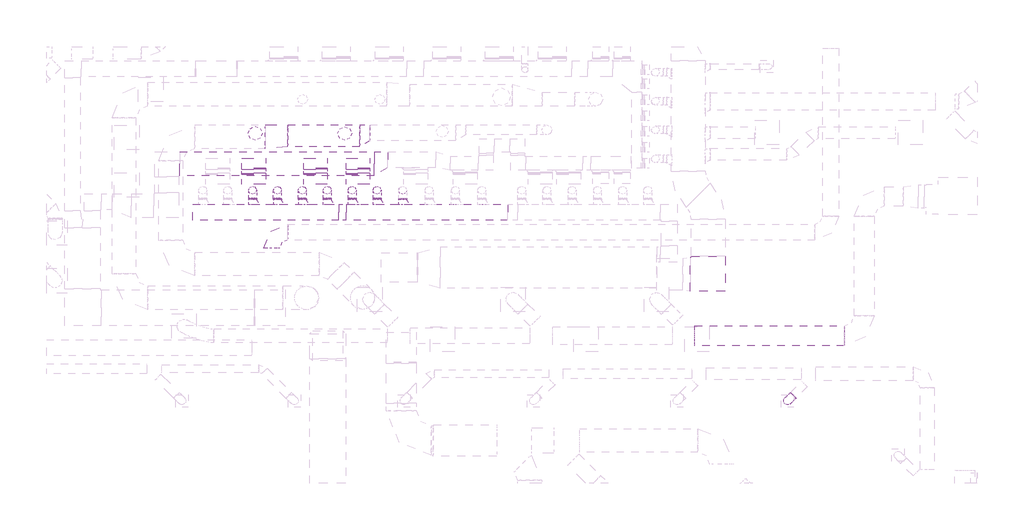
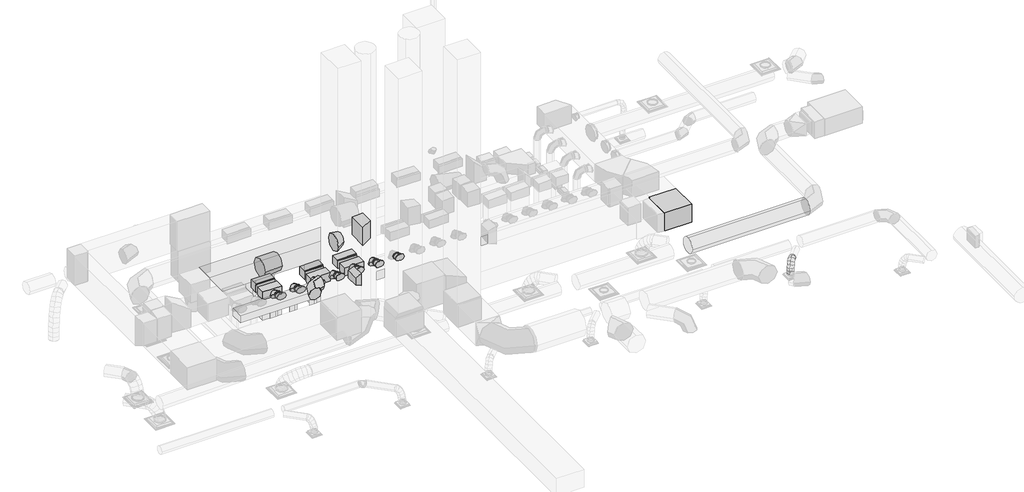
# One storey, part 21 of 33: 31 duct segments, 25 duct fittings.
"""IFC4 building model written with IfcOpenShell, lengths in millimetres."""

from ifc_helpers import new_model, si_unit, point, frame, frame_2d, origin, place, context, project, spatial, polyline, circle_curve, ellipse_curve, trimmed, segment, composite_curve, outline, extrude, transform, mapped, element, save
from ifc_brep_helpers import plane_surface, cylinder_surface, advanced_brep
from components import rectangular_elbow_mitered_standard_6e169d3c, rectangular_elbow_mitered_standard_939e93b7, rectangular_transition_angle_30_degree_c04a8cc3, rectangular_transition_angle_45_degree_9c68b8d8, round_elbow_1_d_8aca8b6e, round_elbow_1_d_a253342a, round_takeoff_shoe_standard_04262b54, round_takeoff_shoe_standard_1102fee2, round_transition_angle_30_degree_d5e024f3, round_transition_angle_5_degree_61572db6

model = new_model("IFC4")

# Units and contexts
model_context = context("Model", 3, world=origin())
ifc_project = project(units=[si_unit("LENGTHUNIT", "METRE", prefix="MILLI")], contexts=[model_context])

# Site, building, storey
site = spatial("IfcSite", under=ifc_project)
building = spatial("IfcBuilding", under=site)
storey = spatial("IfcBuildingStorey", under=building, Name="T.O. SLAB - 1ST", Elevation=-25.4)

# Duct fittings
placement = place(None, origin())
rectangular_elbow_mitered_standard_shape = rectangular_elbow_mitered_standard_6e169d3c(model_context)
element("IfcDuctFitting", 1, ObjectType="Rectangular Elbow - Mitered : Standard", at=placement, inside=storey, context=model_context, shape_type="MappedRepresentation", body=[
    mapped(rectangular_elbow_mitered_standard_shape, transform((28113.1876835, 23618.6195003, 4038.6), x_axis=(1.0, 0.0, 0.0), y_axis=(0.0, 1.0, 0.0), z_axis=(0.0, 0.0, 1.0))),
])
rectangular_elbow_mitered_standard_2_shape = rectangular_elbow_mitered_standard_939e93b7(model_context)
element("IfcDuctFitting", 2, ObjectType="Rectangular Elbow - Mitered : Standard", at=placement, inside=storey, context=model_context, shape_type="MappedRepresentation", body=[
    mapped(rectangular_elbow_mitered_standard_2_shape, transform((16525.0021736, 26045.4861634, 3860.8), x_axis=(0.0, 0.0, 1.0), y_axis=(0.0, 1.0, 0.0), z_axis=(-1.0, 0.0, 0.0))),
])
element("IfcDuctFitting", 3, ObjectType="Rectangular Elbow - Mitered : Standard", at=placement, inside=storey, context=model_context, shape_type="MappedRepresentation", body=[
    mapped(rectangular_elbow_mitered_standard_2_shape, transform((16525.0021736, 26454.3586872, 3860.8), x_axis=(0.0, 1.0, 0.0), y_axis=(0.0, 0.0, 1.0), z_axis=(1.0, 0.0, 0.0))),
])
element("IfcDuctFitting", 4, ObjectType="Rectangular Elbow - Mitered : Standard", at=placement, inside=storey, context=model_context, shape_type="MappedRepresentation", body=[
    mapped(rectangular_elbow_mitered_standard_2_shape, transform((18097.3470346, 26045.4861634, 3759.2002098), x_axis=(0.0, 0.0, 1.0), y_axis=(0.0, 1.0, 0.0), z_axis=(-1.0, 0.0, 0.0))),
])
element("IfcDuctFitting", 5, ObjectType="Rectangular Elbow - Mitered : Standard", at=placement, inside=storey, context=model_context, shape_type="MappedRepresentation", body=[
    mapped(rectangular_elbow_mitered_standard_2_shape, transform((18097.3470346, 26454.3586872, 3759.2002098), x_axis=(0.0, 1.0, 0.0), y_axis=(0.0, 0.0, 1.0), z_axis=(1.0, 0.0, 0.0))),
])
element("IfcDuctFitting", 6, ObjectType="Rectangular Elbow - Mitered : Standard", at=placement, inside=storey, context=model_context, shape_type="MappedRepresentation", body=[
    mapped(rectangular_elbow_mitered_standard_2_shape, transform((19180.7052113, 26045.4861634, 3759.2002098), x_axis=(0.0, 0.0, 1.0), y_axis=(0.0, 1.0, 0.0), z_axis=(-1.0, 0.0, 0.0))),
])
element("IfcDuctFitting", 7, ObjectType="Rectangular Elbow - Mitered : Standard", at=placement, inside=storey, context=model_context, shape_type="MappedRepresentation", body=[
    mapped(rectangular_elbow_mitered_standard_2_shape, transform((19180.7052113, 26454.3586872, 3759.2002098), x_axis=(0.0, 1.0, 0.0), y_axis=(0.0, 0.0, 1.0), z_axis=(1.0, 0.0, 0.0))),
])
rectangular_transition_angle_30_degree_shape = rectangular_transition_angle_30_degree_c04a8cc3(model_context)
element("IfcDuctFitting", 8, ObjectType="Rectangular Transition - Angle : 30 Degree", at=placement, inside=storey, context=model_context, shape_type="MappedRepresentation", body=[
    mapped(rectangular_transition_angle_30_degree_shape, transform((19590.4765778, 26439.3554681, 4580.960269), x_axis=(0.9999999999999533, 0.0, 3.0557005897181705e-07), y_axis=(0.0, 1.0000000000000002, 0.0), z_axis=(-3.055700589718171e-07, 0.0, 0.9999999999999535))),
])
rectangular_transition_angle_45_degree_shape = rectangular_transition_angle_45_degree_9c68b8d8(model_context)
element("IfcDuctFitting", 9, ObjectType="Rectangular Transition - Angle : 45 Degree", at=placement, inside=storey, context=model_context, shape_type="MappedRepresentation", body=[
    mapped(rectangular_transition_angle_45_degree_shape, transform((18879.7276932, 25204.454345, 4038.6), x_axis=(-1.0, 0.0, 0.0), y_axis=(0.0, -1.0, 0.0), z_axis=(0.0, 0.0, 1.0))),
])
round_elbow_1_d_shape = round_elbow_1_d_8aca8b6e(model_context)
element("IfcDuctFitting", 10, ObjectType="Round Elbow : 1 D", at=placement, inside=storey, context=model_context, shape_type="MappedRepresentation", body=[
    mapped(round_elbow_1_d_shape, transform((16978.9333005, 24698.325, 4648.2), x_axis=(-1.0, 0.0, 0.0), y_axis=(0.0, -1.0, 0.0), z_axis=(0.0, 0.0, 1.0))),
])
round_elbow_1_d_2_shape = round_elbow_1_d_a253342a(model_context)
element("IfcDuctFitting", 11, ObjectType="Round Elbow : 1 D", at=placement, inside=storey, context=model_context, shape_type="MappedRepresentation", body=[
    mapped(round_elbow_1_d_2_shape, transform((16491.1839544, 25766.0861634, 4038.6), x_axis=(0.0, 1.0, 0.0), y_axis=(0.0, 0.0, -1.0), z_axis=(-1.0, 0.0, 0.0))),
])
element("IfcDuctFitting", 12, ObjectType="Round Elbow : 1 D", at=placement, inside=storey, context=model_context, shape_type="MappedRepresentation", body=[
    mapped(round_elbow_1_d_2_shape, transform((17126.1839544, 25766.0861634, 4038.6), x_axis=(0.0, 1.0, 0.0), y_axis=(0.0, 0.0, -1.0), z_axis=(-1.0, 0.0, 0.0))),
])
element("IfcDuctFitting", 13, ObjectType="Round Elbow : 1 D", at=placement, inside=storey, context=model_context, shape_type="MappedRepresentation", body=[
    mapped(round_elbow_1_d_2_shape, transform((17761.1839544, 25766.0861634, 4038.6), x_axis=(0.0, 1.0, 0.0), y_axis=(0.0, 0.0, -1.0), z_axis=(-1.0, 0.0, 0.0))),
])
element("IfcDuctFitting", 14, ObjectType="Round Elbow : 1 D", at=placement, inside=storey, context=model_context, shape_type="MappedRepresentation", body=[
    mapped(round_elbow_1_d_2_shape, transform((18396.1839544, 25766.0861634, 4038.6), x_axis=(0.0, 1.0, 0.0), y_axis=(0.0, 0.0, -1.0), z_axis=(-1.0, 0.0, 0.0))),
])
element("IfcDuctFitting", 15, ObjectType="Round Elbow : 1 D", at=placement, inside=storey, context=model_context, shape_type="MappedRepresentation", body=[
    mapped(round_elbow_1_d_2_shape, transform((19031.1839544, 25766.0861634, 4038.6), x_axis=(0.0, 0.0, 1.0), y_axis=(0.0, -1.0, 0.0), z_axis=(1.0, 0.0, 0.0))),
])
element("IfcDuctFitting", 16, ObjectType="Round Elbow : 1 D", at=placement, inside=storey, context=model_context, shape_type="MappedRepresentation", body=[
    mapped(round_elbow_1_d_2_shape, transform((19666.1839544, 25766.0861634, 4038.6), x_axis=(0.0, 0.0, 1.0), y_axis=(0.0, -1.0, 0.0), z_axis=(1.0, 0.0, 0.0))),
])
round_takeoff_shoe_standard_shape = round_takeoff_shoe_standard_04262b54(model_context)
element("IfcDuctFitting", 17, ObjectType="Round Takeoff - Shoe : Standard", at=placement, inside=storey, context=model_context, shape_type="MappedRepresentation", body=[
    mapped(round_takeoff_shoe_standard_shape, transform((16491.1839544, 25407.654345, 4038.6), x_axis=(0.0, 1.0, 0.0), y_axis=(-1.0000000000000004, 0.0, 0.0), z_axis=(0.0, 0.0, 1.0000000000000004))),
])
element("IfcDuctFitting", 18, ObjectType="Round Takeoff - Shoe : Standard", at=placement, inside=storey, context=model_context, shape_type="MappedRepresentation", body=[
    mapped(round_takeoff_shoe_standard_shape, transform((17126.1839544, 25407.654345, 4038.6), x_axis=(0.0, 1.0, 0.0), y_axis=(-1.0000000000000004, 0.0, 0.0), z_axis=(0.0, 0.0, 1.0000000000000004))),
])
element("IfcDuctFitting", 19, ObjectType="Round Takeoff - Shoe : Standard", at=placement, inside=storey, context=model_context, shape_type="MappedRepresentation", body=[
    mapped(round_takeoff_shoe_standard_shape, transform((17761.1839544, 25407.654345, 4038.6), x_axis=(0.0, 1.0, 0.0), y_axis=(-1.0000000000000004, 0.0, 0.0), z_axis=(0.0, 0.0, 1.0000000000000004))),
])
element("IfcDuctFitting", 20, ObjectType="Round Takeoff - Shoe : Standard", at=placement, inside=storey, context=model_context, shape_type="MappedRepresentation", body=[
    mapped(round_takeoff_shoe_standard_shape, transform((18396.1839544, 25407.654345, 4038.6), x_axis=(0.0, 1.0, 0.0), y_axis=(-1.0000000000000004, 0.0, 0.0), z_axis=(0.0, 0.0, 1.0000000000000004))),
])
round_takeoff_shoe_standard_2_shape = round_takeoff_shoe_standard_1102fee2(model_context)
element("IfcDuctFitting", 21, ObjectType="Round Takeoff - Shoe : Standard", at=placement, inside=storey, context=model_context, shape_type="MappedRepresentation", body=[
    mapped(round_takeoff_shoe_standard_2_shape, transform((19031.1839544, 25407.654345, 4038.6), x_axis=(0.0, 1.0, 0.0), y_axis=(1.0, 0.0, 0.0), z_axis=(0.0, 0.0, -1.0))),
])
element("IfcDuctFitting", 22, ObjectType="Round Takeoff - Shoe : Standard", at=placement, inside=storey, context=model_context, shape_type="MappedRepresentation", body=[
    mapped(round_takeoff_shoe_standard_2_shape, transform((19666.1839544, 25407.654345, 4038.6), x_axis=(0.0, 1.0, 0.0), y_axis=(1.0, 0.0, 0.0), z_axis=(0.0, 0.0, -1.0))),
])
element("IfcDuctFitting", 23, ObjectType="Round Takeoff - Shoe : Standard", at=placement, inside=storey, context=model_context, shape_type="MappedRepresentation", body=[
    mapped(round_takeoff_shoe_standard_2_shape, transform((20320.2339544, 25407.654345, 4038.6), x_axis=(0.0, 1.0, 0.0), y_axis=(1.0, 0.0, 0.0), z_axis=(0.0, 0.0, -1.0))),
])
round_transition_angle_30_degree_shape = round_transition_angle_30_degree_d5e024f3(model_context)
element("IfcDuctFitting", 24, ObjectType="Round Transition - Angle : 30 Degree", at=placement, inside=storey, context=model_context, shape_type="MappedRepresentation", body=[
    mapped(round_transition_angle_30_degree_shape, transform((19222.0037073, 27150.5634642, 3892.55), x_axis=(1.0, 0.0, 0.0), y_axis=(0.0, 1.0, 0.0), z_axis=(0.0, 0.0, 1.0))),
])
round_transition_angle_5_degree_shape = round_transition_angle_5_degree_61572db6(model_context)
element("IfcDuctFitting", 25, ObjectType="Round Transition - Angle : 5 Degree", at=placement, inside=storey, context=model_context, shape_type="MappedRepresentation", body=[
    mapped(round_transition_angle_5_degree_shape, transform((16814.7900781, 27125.1634642, 3892.55), x_axis=(1.0, 0.0, 0.0), y_axis=(0.0, 1.0, 0.0), z_axis=(0.0, 0.0, 1.0))),
])

# Duct segments
element("IfcDuctSegment", 26, ObjectType="Flex - Round", at=placement, inside=storey, context=model_context, shape_type="AdvancedBrep", body=[
    advanced_brep(
    [(30352.3201551, 20463.5313832, 3530.6), (30280.4781061, 20535.3734322, 3429.0), (30208.6360571, 20607.2154811, 3530.6), (30280.4781061, 20535.3734322, 3632.2), (30332.1145009, 20443.3257291, 3530.6), (30277.3481368, 20532.2434629, 3429.0), (30188.53255, 20587.111974, 3530.6), (30243.2989142, 20498.1942402, 3632.2), (30208.4683912, 20320.8216688, 3117.85), (30064.7846844, 20321.1569141, 3117.85), (30065.1199297, 20464.840621, 3117.85), (30208.8036366, 20464.5053756, 3117.85), (30303.9301165, 20415.2261322, 3510.6152663), (30275.0542374, 20529.9564642, 3427.3734621), (30160.4945825, 20559.1583535, 3510.7190863), (30189.3704616, 20444.4280215, 3593.9608904), (30266.7491778, 20378.2568308, 3457.535869), (30254.271234, 20509.2917596, 3397.7037084), (30123.3906443, 20522.2656144, 3457.7496147), (30135.8685881, 20391.2306856, 3517.5817753), (30239.6699286, 20351.452559, 3381.5439205), (30235.3691358, 20490.5816036, 3344.6591332), (30096.337735, 20495.487415, 3381.8315832), (30100.6385278, 20356.3583704, 3418.7163705), (30221.6340426, 20333.6915046, 3292.8233304), (30220.4370407, 20475.8770443, 3271.2064459), (30078.3002632, 20477.724799, 3293.1031925), (30079.4972652, 20335.5392593, 3314.720077), (30211.5845889, 20323.8533685, 3201.5338504), (30211.6142397, 20467.2397672, 3191.0599091), (30068.241242, 20467.8772966, 3201.7268012), (30068.2115912, 20324.4908979, 3212.2007425), (30208.4683912, 20320.8216688, 3123.0874764), (30208.8036366, 20464.5053756, 3120.3064953), (30065.1199297, 20464.840621, 3123.1516743), (30064.7846844, 20321.1569141, 3125.9326554)],
    [
        (0, 1, circle_curve(frame((30280.4781061, 20535.3734322, 3530.6), z_axis=(0.7071067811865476, 0.7071067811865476, 0.0), x_axis=(0.7071067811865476, -0.7071067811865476, 0.0)), 101.6)),
        (1, 2, circle_curve(frame((30280.4781061, 20535.3734322, 3530.6), z_axis=(0.7071067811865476, 0.7071067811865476, 0.0), x_axis=(0.7071067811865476, -0.7071067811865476, 0.0)), 101.6)),
        (2, 3, circle_curve(frame((30280.4781061, 20535.3734322, 3530.6), z_axis=(0.7071067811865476, 0.7071067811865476, 0.0), x_axis=(0.7071067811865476, -0.7071067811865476, 0.0)), 101.6)),
        (3, 0, circle_curve(frame((30280.4781061, 20535.3734322, 3530.6), z_axis=(0.7071067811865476, 0.7071067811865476, 0.0), x_axis=(0.7071067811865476, -0.7071067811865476, 0.0)), 101.6)),
        (0, 4),
        (4, 5, ellipse_curve(frame((30260.3235255, 20515.2188515, 3530.6), z_axis=(0.6885404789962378, 0.6875621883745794, 0.2305867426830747), x_axis=(0.16098605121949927, 0.16511431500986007, -0.9730471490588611)), 104.4137922, 101.6)),
        (5, 1),
        (5, 6, ellipse_curve(frame((30260.3235255, 20515.2188515, 3530.6), z_axis=(0.6885404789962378, 0.6875621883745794, 0.2305867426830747), x_axis=(0.16098605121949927, 0.16511431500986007, -0.9730471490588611)), 104.4137922, 101.6)),
        (6, 2),
        (6, 7, ellipse_curve(frame((30260.3235255, 20515.2188515, 3530.6), z_axis=(0.6885404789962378, 0.6875621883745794, 0.2305867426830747), x_axis=(0.16098605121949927, 0.16511431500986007, -0.9730471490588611)), 104.4137922, 101.6)),
        (7, 3),
        (7, 4, ellipse_curve(frame((30260.3235255, 20515.2188515, 3530.6), z_axis=(0.6885404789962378, 0.6875621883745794, 0.2305867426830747), x_axis=(0.16098605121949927, 0.16511431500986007, -0.9730471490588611)), 104.4137922, 101.6)),
        (8, 9, circle_curve(frame((30136.7941605, 20392.8311449, 3117.85), z_axis=(0.0, 0.0, -1.0), x_axis=(0.7054550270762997, -0.7087546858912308, 0.0)), 101.6)),
        (9, 10, circle_curve(frame((30136.7941605, 20392.8311449, 3117.85), z_axis=(0.0, 0.0, -1.0), x_axis=(0.7054550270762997, -0.7087546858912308, 0.0)), 101.6)),
        (10, 11, circle_curve(frame((30136.7941605, 20392.8311449, 3117.85), z_axis=(0.0, 0.0, -1.0), x_axis=(0.7054550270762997, -0.7087546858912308, 0.0)), 101.6)),
        (11, 8, circle_curve(frame((30136.7941605, 20392.8311449, 3117.85), z_axis=(0.0, 0.0, -1.0), x_axis=(0.7054550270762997, -0.7087546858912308, 0.0)), 101.6)),
        (4, 12),
        (12, 13, ellipse_curve(frame((30232.2123495, 20487.1922428, 3510.6671763), z_axis=(0.5732082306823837, 0.5708061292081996, 0.5878883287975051), x_axis=(0.4142653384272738, 0.4171377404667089, -0.8089377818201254)), 102.96626, 101.6)),
        (13, 5),
        (13, 14, ellipse_curve(frame((30232.2123495, 20487.1922428, 3510.6671763), z_axis=(0.5732082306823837, 0.5708061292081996, 0.5878883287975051), x_axis=(0.4142653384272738, 0.4171377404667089, -0.8089377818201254)), 102.96626, 101.6)),
        (14, 6),
        (14, 15, ellipse_curve(frame((30232.2123495, 20487.1922428, 3510.6671763), z_axis=(0.5732082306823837, 0.5708061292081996, 0.5878883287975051), x_axis=(0.4142653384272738, 0.4171377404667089, -0.8089377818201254)), 102.96626, 101.6)),
        (15, 7),
        (15, 12, ellipse_curve(frame((30232.2123495, 20487.1922428, 3510.6671763), z_axis=(0.5732082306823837, 0.5708061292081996, 0.5878883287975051), x_axis=(0.4142653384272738, 0.4171377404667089, -0.8089377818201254)), 102.96626, 101.6)),
        (12, 16),
        (16, 17, ellipse_curve(frame((30195.069911, 20450.2612226, 3457.6427418), z_axis=(0.4135458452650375, 0.41047227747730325, 0.8127068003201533), x_axis=(0.5740369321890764, 0.575307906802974, -0.5826683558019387)), 102.8692851, 101.6)),
        (17, 13),
        (17, 18, ellipse_curve(frame((30195.069911, 20450.2612226, 3457.6427418), z_axis=(0.4135458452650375, 0.41047227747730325, 0.8127068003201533), x_axis=(0.5740369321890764, 0.575307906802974, -0.5826683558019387)), 102.8692851, 101.6)),
        (18, 14),
        (18, 19, ellipse_curve(frame((30195.069911, 20450.2612226, 3457.6427418), z_axis=(0.4135458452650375, 0.41047227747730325, 0.8127068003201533), x_axis=(0.5740369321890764, 0.575307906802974, -0.5826683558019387)), 102.8692851, 101.6)),
        (19, 15),
        (19, 16, ellipse_curve(frame((30195.069911, 20450.2612226, 3457.6427418), z_axis=(0.4135458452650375, 0.41047227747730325, 0.8127068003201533), x_axis=(0.5740369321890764, 0.575307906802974, -0.5826683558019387)), 102.8692851, 101.6)),
        (16, 20),
        (20, 21, ellipse_curve(frame((30168.0038318, 20423.469987, 3381.6877518), z_axis=(0.2581422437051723, 0.2550218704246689, 0.9318403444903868), x_axis=(0.6595970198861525, 0.6582257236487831, -0.3628645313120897)), 102.0449505, 101.6)),
        (21, 17),
        (21, 22, ellipse_curve(frame((30168.0038318, 20423.469987, 3381.6877518), z_axis=(0.2581422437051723, 0.2550218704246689, 0.9318403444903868), x_axis=(0.6595970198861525, 0.6582257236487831, -0.3628645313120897)), 102.0449505, 101.6)),
        (22, 18),
        (22, 23, ellipse_curve(frame((30168.0038318, 20423.469987, 3381.6877518), z_axis=(0.2581422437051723, 0.2550218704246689, 0.9318403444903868), x_axis=(0.6595970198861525, 0.6582257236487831, -0.3628645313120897)), 102.0449505, 101.6)),
        (23, 19),
        (23, 20, ellipse_curve(frame((30168.0038318, 20423.469987, 3381.6877518), z_axis=(0.2581422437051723, 0.2550218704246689, 0.9318403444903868), x_axis=(0.6595970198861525, 0.6582257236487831, -0.3628645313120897)), 102.0449505, 101.6)),
        (20, 24),
        (24, 25, ellipse_curve(frame((30149.9671529, 20405.7081518, 3292.9632615), z_axis=(0.15244178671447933, 0.14980329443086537, 0.9768932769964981), x_axis=(0.6935269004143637, 0.6879984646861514, -0.21372541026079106)), 101.7990065, 101.6)),
        (25, 21),
        (25, 26, ellipse_curve(frame((30149.9671529, 20405.7081518, 3292.9632615), z_axis=(0.15244178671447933, 0.14980329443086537, 0.9768932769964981), x_axis=(0.6935269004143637, 0.6879984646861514, -0.21372541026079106)), 101.7990065, 101.6)),
        (26, 22),
        (26, 27, ellipse_curve(frame((30149.9671529, 20405.7081518, 3292.9632615), z_axis=(0.15244178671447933, 0.14980329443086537, 0.9768932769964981), x_axis=(0.6935269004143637, 0.6879984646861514, -0.21372541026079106)), 101.7990065, 101.6)),
        (27, 23),
        (27, 24, ellipse_curve(frame((30149.9671529, 20405.7081518, 3292.9632615), z_axis=(0.15244178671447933, 0.14980329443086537, 0.9768932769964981), x_axis=(0.6935269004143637, 0.6879984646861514, -0.21372541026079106)), 101.7990065, 101.6)),
        (24, 28),
        (28, 29, ellipse_curve(frame((30139.9129154, 20395.8653325, 3201.6303258), z_axis=(0.07431974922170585, 0.07263609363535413, 0.9945856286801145), x_axis=(0.7094711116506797, 0.6970304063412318, -0.10391994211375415)), 101.7208169, 101.6)),
        (29, 25),
        (29, 30, ellipse_curve(frame((30139.9129154, 20395.8653325, 3201.6303258), z_axis=(0.07431974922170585, 0.07263609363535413, 0.9945856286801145), x_axis=(0.7094711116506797, 0.6970304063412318, -0.10391994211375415)), 101.7208169, 101.6)),
        (30, 26),
        (30, 31, ellipse_curve(frame((30139.9129154, 20395.8653325, 3201.6303258), z_axis=(0.07431974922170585, 0.07263609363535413, 0.9945856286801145), x_axis=(0.7094711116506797, 0.6970304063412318, -0.10391994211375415)), 101.7208169, 101.6)),
        (31, 27),
        (31, 28, ellipse_curve(frame((30139.9129154, 20395.8653325, 3201.6303258), z_axis=(0.07431974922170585, 0.07263609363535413, 0.9945856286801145), x_axis=(0.7094711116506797, 0.6970304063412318, -0.10391994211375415)), 101.7208169, 101.6)),
        (28, 32),
        (32, 33, ellipse_curve(frame((30136.7941605, 20392.8311449, 3123.1195753), z_axis=(0.019839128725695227, 0.01930117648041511, 0.9996168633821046), x_axis=(0.7164830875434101, 0.6970551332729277, -0.027678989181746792)), 101.6389416, 101.6)),
        (33, 29),
        (33, 34, ellipse_curve(frame((30136.7941605, 20392.8311449, 3123.1195753), z_axis=(0.019839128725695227, 0.01930117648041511, 0.9996168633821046), x_axis=(0.7164830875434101, 0.6970551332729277, -0.027678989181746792)), 101.6389416, 101.6)),
        (34, 30),
        (34, 35, ellipse_curve(frame((30136.7941605, 20392.8311449, 3123.1195753), z_axis=(0.019839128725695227, 0.01930117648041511, 0.9996168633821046), x_axis=(0.7164830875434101, 0.6970551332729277, -0.027678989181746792)), 101.6389416, 101.6)),
        (35, 31),
        (35, 32, ellipse_curve(frame((30136.7941605, 20392.8311449, 3123.1195753), z_axis=(0.019839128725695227, 0.01930117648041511, 0.9996168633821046), x_axis=(0.7164830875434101, 0.6970551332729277, -0.027678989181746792)), 101.6389416, 101.6)),
        (32, 8),
        (11, 33),
        (10, 34),
        (9, 35),
    ],
    [
        plane_surface(frame((30280.4781061, 20535.3734322, 3429.0), z_axis=(0.7071067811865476, 0.7071067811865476, 0.0), x_axis=(0.7071067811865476, -0.7071067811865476, 0.0))),
        cylinder_surface(frame((30280.4781061, 20535.3734322, 3530.6), z_axis=(0.7071067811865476, 0.7071067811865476, 0.0), x_axis=(0.7071067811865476, -0.7071067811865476, 0.0)), 101.6),
        plane_surface(frame((30136.7941605, 20291.2311449, 3117.85), z_axis=(0.0, 0.0, -1.0), x_axis=(-1.0, 0.0, 0.0))),
        cylinder_surface(frame((30260.3235255, 20515.2188515, 3530.6), z_axis=(0.6328639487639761, 0.6309600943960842, 0.44874556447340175), x_axis=(0.7061541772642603, -0.7080580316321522, -0.0003190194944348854)), 101.6),
        cylinder_surface(frame((30232.2123495, 20487.1922428, 3510.6671763), z_axis=(0.498340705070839, 0.49550410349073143, 0.7114297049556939), x_axis=(0.7056704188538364, -0.7085397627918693, -0.0008151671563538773)), 101.6),
        cylinder_surface(frame((30195.069911, 20450.2612226, 3457.6427418), z_axis=(0.3185456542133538, 0.315310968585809, 0.893928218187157), x_axis=(0.7053985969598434, -0.7088095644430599, -0.0013493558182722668)), 101.6),
        cylinder_surface(frame((30168.0038318, 20423.469987, 3381.6877518), z_axis=(0.19548765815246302, 0.19250880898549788, 0.9616261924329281), x_axis=(0.705360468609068, -0.7088472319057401, -0.0014869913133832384)), 101.6),
        cylinder_surface(frame((30149.9671529, 20405.7081518, 3292.9632615), z_axis=(0.10879989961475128, 0.10651208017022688, 0.9883409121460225), x_axis=(0.7053951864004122, -0.7088131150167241, -0.0012645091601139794)), 101.6),
        cylinder_surface(frame((30139.9129154, 20395.8653325, 3201.6303258), z_axis=(0.039663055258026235, 0.038587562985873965, 0.9984677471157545), x_axis=(0.7054424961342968, -0.7087668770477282, -0.0006313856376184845)), 101.6),
        cylinder_surface(frame((30136.7941605, 20392.8311449, 3123.1195753), z_axis=(0.0, 0.0, 1.0), x_axis=(0.7054550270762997, -0.7087546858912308, 0.0)), 101.6),
    ],
    [
        (0, [[1, 2, 3, 4]]),
        (1, [[-1, 5, 6, 7]]),
        (1, [[-2, -7, 8, 9]]),
        (1, [[-3, -9, 10, 11]]),
        (1, [[-4, -11, 12, -5]]),
        (2, [[13, 14, 15, 16]]),
        (3, [[-6, 17, 18, 19]]),
        (3, [[-8, -19, 20, 21]]),
        (3, [[-10, -21, 22, 23]]),
        (3, [[-12, -23, 24, -17]]),
        (4, [[-18, 25, 26, 27]]),
        (4, [[-20, -27, 28, 29]]),
        (4, [[-22, -29, 30, 31]]),
        (4, [[-24, -31, 32, -25]]),
        (5, [[-26, 33, 34, 35]]),
        (5, [[-28, -35, 36, 37]]),
        (5, [[-30, -37, 38, 39]]),
        (5, [[-32, -39, 40, -33]]),
        (6, [[-34, 41, 42, 43]]),
        (6, [[-36, -43, 44, 45]]),
        (6, [[-38, -45, 46, 47]]),
        (6, [[-40, -47, 48, -41]]),
        (7, [[-42, 49, 50, 51]]),
        (7, [[-44, -51, 52, 53]]),
        (7, [[-46, -53, 54, 55]]),
        (7, [[-48, -55, 56, -49]]),
        (8, [[-50, 57, 58, 59]]),
        (8, [[-52, -59, 60, 61]]),
        (8, [[-54, -61, 62, 63]]),
        (8, [[-56, -63, 64, -57]]),
        (9, [[-58, 65, -16, 66]]),
        (9, [[-60, -66, -15, 67]]),
        (9, [[-62, -67, -14, 68]]),
        (9, [[-64, -68, -13, -65]]),
    ],
),
])
element("IfcDuctSegment", 27, ObjectType="Mitered Elbows / Taps", at=placement, inside=storey, context=model_context, shape_type="SweptSolid", body=[
    extrude(outline(polyline([(18879.7276932, 25001.254345), (18879.7276932, 25407.654345), (23004.2494948, 25407.654345), (23004.2494948, 25001.254345), (18879.7276932, 25001.254345)])), frame((0.0, 0.0, 3835.4), z_axis=(0.0, 0.0, 1.0), x_axis=(1.0, 0.0, 0.0)), (0.0, 0.0, 1.0), 406.4),
])
element("IfcDuctSegment", 28, ObjectType="Mitered Elbows / Taps", at=placement, inside=storey, context=model_context, shape_type="SweptSolid", body=[
    extrude(outline(polyline([(18695.7646197, 25407.654345), (18695.7646197, 25001.254345), (14970.3316778, 25001.254345), (14970.3316778, 25407.654345), (18695.7646197, 25407.654345)])), frame((0.0, 0.0, 3911.6), z_axis=(0.0, 0.0, 1.0), x_axis=(1.0, 0.0, 0.0)), (0.0, 0.0, 1.0), 254.0),
])
element("IfcDuctSegment", 29, ObjectType="Mitered Elbows / Taps", at=placement, inside=storey, context=model_context, shape_type="SweptSolid", body=[
    extrude(outline(polyline([(16829.8021736, 25918.4861634), (16220.2021736, 25918.4861634), (16220.2021736, 26172.4861634), (16829.8021736, 26172.4861634), (16829.8021736, 25918.4861634)])), frame((0.0, 0.0, 3010.628306), z_axis=(0.0, 0.0, 1.0), x_axis=(1.0, 0.0, 0.0)), (0.0, 0.0, 1.0), 697.771694),
])
element("IfcDuctSegment", 30, ObjectType="Mitered Elbows / Taps", at=placement, inside=storey, context=model_context, shape_type="SweptSolid", body=[
    extrude(outline(polyline([(16829.8021736, 26197.8861634), (16220.2021736, 26197.8861634), (16220.2021736, 26301.9586872), (16829.8021736, 26301.9586872), (16829.8021736, 26197.8861634)])), frame((0.0, 0.0, 3733.8), z_axis=(0.0, 0.0, 1.0), x_axis=(1.0, 0.0, 0.0)), (0.0, 0.0, 1.0), 254.0),
])
element("IfcDuctSegment", 31, ObjectType="Mitered Elbows / Taps", at=placement, inside=storey, context=model_context, shape_type="SweptSolid", body=[
    extrude(outline(polyline([(16829.8021736, 26327.3586872), (16220.2021736, 26327.3586872), (16220.2021736, 26581.3586872), (16829.8021736, 26581.3586872), (16829.8021736, 26327.3586872)])), frame((0.0, 0.0, 4013.2), z_axis=(0.0, 0.0, 1.0), x_axis=(1.0, 0.0, 0.0)), (0.0, 0.0, 1.0), 262.9587181),
])
element("IfcDuctSegment", 32, ObjectType="Mitered Elbows / Taps", at=placement, inside=storey, context=model_context, shape_type="SweptSolid", body=[
    extrude(outline(polyline([(14629.5111715, 26134.5554681), (14629.5111715, 26744.1554681), (19590.4765778, 26744.1554681), (19590.4765778, 26134.5554681), (14629.5111715, 26134.5554681)])), frame((0.0, 0.0, 4276.1587181), z_axis=(0.0, 0.0, 1.0), x_axis=(1.0, 0.0, 0.0)), (0.0, 0.0, 1.0), 609.6),
])
element("IfcDuctSegment", 33, ObjectType="Mitered Elbows / Taps", at=placement, inside=storey, context=model_context, shape_type="SweptSolid", body=[
    extrude(outline(polyline([(18402.1470346, 25918.4861634), (17792.5470346, 25918.4861634), (17792.5470346, 26172.4861634), (18402.1470346, 26172.4861634), (18402.1470346, 25918.4861634)])), frame((0.0, 0.0, 3010.628306), z_axis=(0.0, 0.0, 1.0), x_axis=(1.0, 0.0, 0.0)), (0.0, 0.0, 1.0), 596.1719038),
])
element("IfcDuctSegment", 34, ObjectType="Mitered Elbows / Taps", at=placement, inside=storey, context=model_context, shape_type="SweptSolid", body=[
    extrude(outline(polyline([(18402.1470346, 26197.8861634), (17792.5470346, 26197.8861634), (17792.5470346, 26301.9586872), (18402.1470346, 26301.9586872), (18402.1470346, 26197.8861634)])), frame((0.0, 0.0, 3632.2002098), z_axis=(0.0, 0.0, 1.0), x_axis=(1.0, 0.0, 0.0)), (0.0, 0.0, 1.0), 254.0),
])
element("IfcDuctSegment", 35, ObjectType="Mitered Elbows / Taps", at=placement, inside=storey, context=model_context, shape_type="SweptSolid", body=[
    extrude(outline(polyline([(18402.1470346, 26327.3586872), (17792.5470346, 26327.3586872), (17792.5470346, 26581.3586872), (18402.1470346, 26581.3586872), (18402.1470346, 26327.3586872)])), frame((0.0, 0.0, 3911.6002098), z_axis=(0.0, 0.0, 1.0), x_axis=(1.0, 0.0, 0.0)), (0.0, 0.0, 1.0), 364.5585083),
])
element("IfcDuctSegment", 36, ObjectType="Mitered Elbows / Taps", at=placement, inside=storey, context=model_context, shape_type="SweptSolid", body=[
    extrude(outline(polyline([(19485.5052113, 25918.4861634), (18875.9052113, 25918.4861634), (18875.9052113, 26172.4861634), (19485.5052113, 26172.4861634), (19485.5052113, 25918.4861634)])), frame((0.0, 0.0, 3010.628306), z_axis=(0.0, 0.0, 1.0), x_axis=(1.0, 0.0, 0.0)), (0.0, 0.0, 1.0), 596.1719038),
])
element("IfcDuctSegment", 37, ObjectType="Mitered Elbows / Taps", at=placement, inside=storey, context=model_context, shape_type="SweptSolid", body=[
    extrude(outline(polyline([(19485.5052113, 26197.8861634), (18875.9052113, 26197.8861634), (18875.9052113, 26301.9586872), (19485.5052113, 26301.9586872), (19485.5052113, 26197.8861634)])), frame((0.0, 0.0, 3632.2002098), z_axis=(0.0, 0.0, 1.0), x_axis=(1.0, 0.0, 0.0)), (0.0, 0.0, 1.0), 254.0),
])
element("IfcDuctSegment", 38, ObjectType="Mitered Elbows / Taps", at=placement, inside=storey, context=model_context, shape_type="SweptSolid", body=[
    extrude(outline(polyline([(19485.5052113, 26327.3586872), (18875.9052113, 26327.3586872), (18875.9052113, 26581.3586872), (19485.5052113, 26581.3586872), (19485.5052113, 26327.3586872)])), frame((0.0, 0.0, 3911.6002098), z_axis=(0.0, 0.0, 1.0), x_axis=(1.0, 0.0, 0.0)), (0.0, 0.0, 1.0), 364.5585083),
])
element("IfcDuctSegment", 39, ObjectType="Taps", at=placement, inside=storey, context=model_context, shape_type="SweptSolid", body=[
    extrude(outline(composite_curve([segment(trimmed(circle_curve(frame_2d((4038.6, 16491.1839544)), 101.6), [point((4038.6, 16592.7839544))], [point((4140.2, 16491.1839544))], False, "CARTESIAN"), True, "CONTINUOUS"), segment(trimmed(circle_curve(frame_2d((4038.6, 16491.1839544)), 101.6), [point((4140.2, 16491.1839544))], [point((4038.6, 16389.5839544))], False, "CARTESIAN"), True, "CONTINUOUS"), segment(trimmed(circle_curve(frame_2d((4038.6, 16491.1839544)), 101.6), [point((4038.6, 16389.5839544))], [point((3937.0, 16491.1839544))], False, "CARTESIAN"), True, "CONTINUOUS"), segment(trimmed(circle_curve(frame_2d((4038.6, 16491.1839544)), 101.6), [point((3937.0, 16491.1839544))], [point((4038.6, 16592.7839544))], False, "CARTESIAN"), True, "CONTINUOUS")], self_intersect=False)), frame((0.0, 25534.654345, 0.0), z_axis=(0.0, 1.0, 0.0), x_axis=(0.0, 0.0, 1.0)), (0.0, 0.0, 1.0), 28.2318184),
])
element("IfcDuctSegment", 40, ObjectType="Taps", at=placement, inside=storey, context=model_context, shape_type="SweptSolid", body=[
    extrude(outline(composite_curve([segment(trimmed(circle_curve(frame_2d((16491.1839544, 25766.0861634)), 101.6), [point((16592.7839544, 25766.0861634))], [point((16491.1839544, 25664.4861634))], False, "CARTESIAN"), True, "CONTINUOUS"), segment(trimmed(circle_curve(frame_2d((16491.1839544, 25766.0861634)), 101.6), [point((16491.1839544, 25664.4861634))], [point((16389.5839544, 25766.0861634))], False, "CARTESIAN"), True, "CONTINUOUS"), segment(trimmed(circle_curve(frame_2d((16491.1839544, 25766.0861634)), 101.6), [point((16389.5839544, 25766.0861634))], [point((16491.1839544, 25867.6861634))], False, "CARTESIAN"), True, "CONTINUOUS"), segment(trimmed(circle_curve(frame_2d((16491.1839544, 25766.0861634)), 101.6), [point((16491.1839544, 25867.6861634))], [point((16592.7839544, 25766.0861634))], False, "CARTESIAN"), True, "CONTINUOUS")], self_intersect=False)), frame((0.0, 0.0, 3010.628306), z_axis=(0.0, 0.0, 1.0), x_axis=(1.0, 0.0, 0.0)), (0.0, 0.0, 1.0), 824.771694),
])
element("IfcDuctSegment", 41, ObjectType="Taps", at=placement, inside=storey, context=model_context, shape_type="SweptSolid", body=[
    extrude(outline(composite_curve([segment(trimmed(circle_curve(frame_2d((4038.6, 17126.1839544)), 101.6), [point((4038.6, 17227.7839544))], [point((4140.2, 17126.1839544))], False, "CARTESIAN"), True, "CONTINUOUS"), segment(trimmed(circle_curve(frame_2d((4038.6, 17126.1839544)), 101.6), [point((4140.2, 17126.1839544))], [point((4038.6, 17024.5839544))], False, "CARTESIAN"), True, "CONTINUOUS"), segment(trimmed(circle_curve(frame_2d((4038.6, 17126.1839544)), 101.6), [point((4038.6, 17024.5839544))], [point((3937.0, 17126.1839544))], False, "CARTESIAN"), True, "CONTINUOUS"), segment(trimmed(circle_curve(frame_2d((4038.6, 17126.1839544)), 101.6), [point((3937.0, 17126.1839544))], [point((4038.6, 17227.7839544))], False, "CARTESIAN"), True, "CONTINUOUS")], self_intersect=False)), frame((0.0, 25534.654345, 0.0), z_axis=(0.0, 1.0, 0.0), x_axis=(0.0, 0.0, 1.0)), (0.0, 0.0, 1.0), 28.2318184),
])
element("IfcDuctSegment", 42, ObjectType="Taps", at=placement, inside=storey, context=model_context, shape_type="SweptSolid", body=[
    extrude(outline(composite_curve([segment(trimmed(circle_curve(frame_2d((17126.1839544, 25766.0861634)), 101.6), [point((17227.7839544, 25766.0861634))], [point((17126.1839544, 25664.4861634))], False, "CARTESIAN"), True, "CONTINUOUS"), segment(trimmed(circle_curve(frame_2d((17126.1839544, 25766.0861634)), 101.6), [point((17126.1839544, 25664.4861634))], [point((17024.5839544, 25766.0861634))], False, "CARTESIAN"), True, "CONTINUOUS"), segment(trimmed(circle_curve(frame_2d((17126.1839544, 25766.0861634)), 101.6), [point((17024.5839544, 25766.0861634))], [point((17126.1839544, 25867.6861634))], False, "CARTESIAN"), True, "CONTINUOUS"), segment(trimmed(circle_curve(frame_2d((17126.1839544, 25766.0861634)), 101.6), [point((17126.1839544, 25867.6861634))], [point((17227.7839544, 25766.0861634))], False, "CARTESIAN"), True, "CONTINUOUS")], self_intersect=False)), frame((0.0, 0.0, 3010.628306), z_axis=(0.0, 0.0, 1.0), x_axis=(1.0, 0.0, 0.0)), (0.0, 0.0, 1.0), 824.771694),
])
element("IfcDuctSegment", 43, ObjectType="Taps", at=placement, inside=storey, context=model_context, shape_type="SweptSolid", body=[
    extrude(outline(composite_curve([segment(trimmed(circle_curve(frame_2d((4038.6, 17761.1839544)), 101.6), [point((4038.6, 17862.7839544))], [point((4140.2, 17761.1839544))], False, "CARTESIAN"), True, "CONTINUOUS"), segment(trimmed(circle_curve(frame_2d((4038.6, 17761.1839544)), 101.6), [point((4140.2, 17761.1839544))], [point((4038.6, 17659.5839544))], False, "CARTESIAN"), True, "CONTINUOUS"), segment(trimmed(circle_curve(frame_2d((4038.6, 17761.1839544)), 101.6), [point((4038.6, 17659.5839544))], [point((3937.0, 17761.1839544))], False, "CARTESIAN"), True, "CONTINUOUS"), segment(trimmed(circle_curve(frame_2d((4038.6, 17761.1839544)), 101.6), [point((3937.0, 17761.1839544))], [point((4038.6, 17862.7839544))], False, "CARTESIAN"), True, "CONTINUOUS")], self_intersect=False)), frame((0.0, 25534.654345, 0.0), z_axis=(0.0, 1.0, 0.0), x_axis=(0.0, 0.0, 1.0)), (0.0, 0.0, 1.0), 28.2318184),
])
element("IfcDuctSegment", 44, ObjectType="Taps", at=placement, inside=storey, context=model_context, shape_type="SweptSolid", body=[
    extrude(outline(composite_curve([segment(trimmed(circle_curve(frame_2d((17761.1839544, 25766.0861634)), 101.6), [point((17862.7839544, 25766.0861634))], [point((17761.1839544, 25664.4861634))], False, "CARTESIAN"), True, "CONTINUOUS"), segment(trimmed(circle_curve(frame_2d((17761.1839544, 25766.0861634)), 101.6), [point((17761.1839544, 25664.4861634))], [point((17659.5839544, 25766.0861634))], False, "CARTESIAN"), True, "CONTINUOUS"), segment(trimmed(circle_curve(frame_2d((17761.1839544, 25766.0861634)), 101.6), [point((17659.5839544, 25766.0861634))], [point((17761.1839544, 25867.6861634))], False, "CARTESIAN"), True, "CONTINUOUS"), segment(trimmed(circle_curve(frame_2d((17761.1839544, 25766.0861634)), 101.6), [point((17761.1839544, 25867.6861634))], [point((17862.7839544, 25766.0861634))], False, "CARTESIAN"), True, "CONTINUOUS")], self_intersect=False)), frame((0.0, 0.0, 3010.628306), z_axis=(0.0, 0.0, 1.0), x_axis=(1.0, 0.0, 0.0)), (0.0, 0.0, 1.0), 824.771694),
])
element("IfcDuctSegment", 45, ObjectType="Taps", at=placement, inside=storey, context=model_context, shape_type="SweptSolid", body=[
    extrude(outline(composite_curve([segment(trimmed(circle_curve(frame_2d((4038.6, 18396.1839544)), 101.6), [point((4038.6, 18497.7839544))], [point((4140.2, 18396.1839544))], False, "CARTESIAN"), True, "CONTINUOUS"), segment(trimmed(circle_curve(frame_2d((4038.6, 18396.1839544)), 101.6), [point((4140.2, 18396.1839544))], [point((4038.6, 18294.5839544))], False, "CARTESIAN"), True, "CONTINUOUS"), segment(trimmed(circle_curve(frame_2d((4038.6, 18396.1839544)), 101.6), [point((4038.6, 18294.5839544))], [point((3937.0, 18396.1839544))], False, "CARTESIAN"), True, "CONTINUOUS"), segment(trimmed(circle_curve(frame_2d((4038.6, 18396.1839544)), 101.6), [point((3937.0, 18396.1839544))], [point((4038.6, 18497.7839544))], False, "CARTESIAN"), True, "CONTINUOUS")], self_intersect=False)), frame((0.0, 25534.654345, 0.0), z_axis=(0.0, 1.0, 0.0), x_axis=(0.0, 0.0, 1.0)), (0.0, 0.0, 1.0), 28.2318184),
])
element("IfcDuctSegment", 46, ObjectType="Taps", at=placement, inside=storey, context=model_context, shape_type="SweptSolid", body=[
    extrude(outline(composite_curve([segment(trimmed(circle_curve(frame_2d((18396.1839544, 25766.0861634)), 101.6), [point((18497.7839544, 25766.0861634))], [point((18396.1839544, 25664.4861634))], False, "CARTESIAN"), True, "CONTINUOUS"), segment(trimmed(circle_curve(frame_2d((18396.1839544, 25766.0861634)), 101.6), [point((18396.1839544, 25664.4861634))], [point((18294.5839544, 25766.0861634))], False, "CARTESIAN"), True, "CONTINUOUS"), segment(trimmed(circle_curve(frame_2d((18396.1839544, 25766.0861634)), 101.6), [point((18294.5839544, 25766.0861634))], [point((18396.1839544, 25867.6861634))], False, "CARTESIAN"), True, "CONTINUOUS"), segment(trimmed(circle_curve(frame_2d((18396.1839544, 25766.0861634)), 101.6), [point((18396.1839544, 25867.6861634))], [point((18497.7839544, 25766.0861634))], False, "CARTESIAN"), True, "CONTINUOUS")], self_intersect=False)), frame((0.0, 0.0, 3010.628306), z_axis=(0.0, 0.0, 1.0), x_axis=(1.0, 0.0, 0.0)), (0.0, 0.0, 1.0), 824.771694),
])
element("IfcDuctSegment", 47, ObjectType="Taps", at=placement, inside=storey, context=model_context, shape_type="SweptSolid", body=[
    extrude(outline(composite_curve([segment(trimmed(circle_curve(frame_2d((4038.6, 19031.1839544)), 101.6), [point((4038.6, 18929.5839544))], [point((3937.0, 19031.1839544))], False, "CARTESIAN"), True, "CONTINUOUS"), segment(trimmed(circle_curve(frame_2d((4038.6, 19031.1839544)), 101.6), [point((3937.0, 19031.1839544))], [point((4038.6, 19132.7839544))], False, "CARTESIAN"), True, "CONTINUOUS"), segment(trimmed(circle_curve(frame_2d((4038.6, 19031.1839544)), 101.6), [point((4038.6, 19132.7839544))], [point((4140.2, 19031.1839544))], False, "CARTESIAN"), True, "CONTINUOUS"), segment(trimmed(circle_curve(frame_2d((4038.6, 19031.1839544)), 101.6), [point((4140.2, 19031.1839544))], [point((4038.6, 18929.5839544))], False, "CARTESIAN"), True, "CONTINUOUS")], self_intersect=False)), frame((0.0, 25534.654345, 0.0), z_axis=(0.0, 1.0, 0.0), x_axis=(0.0, 0.0, 1.0)), (0.0, 0.0, 1.0), 28.2318184),
])
element("IfcDuctSegment", 48, ObjectType="Taps", at=placement, inside=storey, context=model_context, shape_type="SweptSolid", body=[
    extrude(outline(composite_curve([segment(trimmed(circle_curve(frame_2d((19031.1839544, 25766.0861634)), 101.6), [point((19132.7839544, 25766.0861634))], [point((19031.1839544, 25664.4861634))], False, "CARTESIAN"), True, "CONTINUOUS"), segment(trimmed(circle_curve(frame_2d((19031.1839544, 25766.0861634)), 101.6), [point((19031.1839544, 25664.4861634))], [point((18929.5839544, 25766.0861634))], False, "CARTESIAN"), True, "CONTINUOUS"), segment(trimmed(circle_curve(frame_2d((19031.1839544, 25766.0861634)), 101.6), [point((18929.5839544, 25766.0861634))], [point((19031.1839544, 25867.6861634))], False, "CARTESIAN"), True, "CONTINUOUS"), segment(trimmed(circle_curve(frame_2d((19031.1839544, 25766.0861634)), 101.6), [point((19031.1839544, 25867.6861634))], [point((19132.7839544, 25766.0861634))], False, "CARTESIAN"), True, "CONTINUOUS")], self_intersect=False)), frame((0.0, 0.0, 3010.628306), z_axis=(0.0, 0.0, 1.0), x_axis=(1.0, 0.0, 0.0)), (0.0, 0.0, 1.0), 824.771694),
])
element("IfcDuctSegment", 49, ObjectType="Taps", at=placement, inside=storey, context=model_context, shape_type="SweptSolid", body=[
    extrude(outline(composite_curve([segment(trimmed(circle_curve(frame_2d((4038.6, 19666.1839544)), 101.6), [point((4038.6, 19564.5839544))], [point((3937.0, 19666.1839544))], False, "CARTESIAN"), True, "CONTINUOUS"), segment(trimmed(circle_curve(frame_2d((4038.6, 19666.1839544)), 101.6), [point((3937.0, 19666.1839544))], [point((4038.6, 19767.7839544))], False, "CARTESIAN"), True, "CONTINUOUS"), segment(trimmed(circle_curve(frame_2d((4038.6, 19666.1839544)), 101.6), [point((4038.6, 19767.7839544))], [point((4140.2, 19666.1839544))], False, "CARTESIAN"), True, "CONTINUOUS"), segment(trimmed(circle_curve(frame_2d((4038.6, 19666.1839544)), 101.6), [point((4140.2, 19666.1839544))], [point((4038.6, 19564.5839544))], False, "CARTESIAN"), True, "CONTINUOUS")], self_intersect=False)), frame((0.0, 25534.654345, 0.0), z_axis=(0.0, 1.0, 0.0), x_axis=(0.0, 0.0, 1.0)), (0.0, 0.0, 1.0), 28.2318184),
])
element("IfcDuctSegment", 50, ObjectType="Taps", at=placement, inside=storey, context=model_context, shape_type="SweptSolid", body=[
    extrude(outline(composite_curve([segment(trimmed(circle_curve(frame_2d((19666.1839544, 25766.0861634)), 101.6), [point((19767.7839544, 25766.0861634))], [point((19666.1839544, 25664.4861634))], False, "CARTESIAN"), True, "CONTINUOUS"), segment(trimmed(circle_curve(frame_2d((19666.1839544, 25766.0861634)), 101.6), [point((19666.1839544, 25664.4861634))], [point((19564.5839544, 25766.0861634))], False, "CARTESIAN"), True, "CONTINUOUS"), segment(trimmed(circle_curve(frame_2d((19666.1839544, 25766.0861634)), 101.6), [point((19564.5839544, 25766.0861634))], [point((19666.1839544, 25867.6861634))], False, "CARTESIAN"), True, "CONTINUOUS"), segment(trimmed(circle_curve(frame_2d((19666.1839544, 25766.0861634)), 101.6), [point((19666.1839544, 25867.6861634))], [point((19767.7839544, 25766.0861634))], False, "CARTESIAN"), True, "CONTINUOUS")], self_intersect=False)), frame((0.0, 0.0, 3010.628306), z_axis=(0.0, 0.0, 1.0), x_axis=(1.0, 0.0, 0.0)), (0.0, 0.0, 1.0), 824.771694),
])
element("IfcDuctSegment", 51, ObjectType="Taps", at=placement, inside=storey, context=model_context, shape_type="SweptSolid", body=[
    extrude(outline(composite_curve([segment(trimmed(circle_curve(frame_2d((4038.6, 20320.2339544)), 101.6), [point((4038.6, 20218.6339544))], [point((3937.0, 20320.2339544))], False, "CARTESIAN"), True, "CONTINUOUS"), segment(trimmed(circle_curve(frame_2d((4038.6, 20320.2339544)), 101.6), [point((3937.0, 20320.2339544))], [point((4038.6, 20421.8339544))], False, "CARTESIAN"), True, "CONTINUOUS"), segment(trimmed(circle_curve(frame_2d((4038.6, 20320.2339544)), 101.6), [point((4038.6, 20421.8339544))], [point((4140.2, 20320.2339544))], False, "CARTESIAN"), True, "CONTINUOUS"), segment(trimmed(circle_curve(frame_2d((4038.6, 20320.2339544)), 101.6), [point((4140.2, 20320.2339544))], [point((4038.6, 20218.6339544))], False, "CARTESIAN"), True, "CONTINUOUS")], self_intersect=False)), frame((0.0, 25534.654345, 0.0), z_axis=(0.0, 1.0, 0.0), x_axis=(0.0, 0.0, 1.0)), (0.0, 0.0, 1.0), 28.2318184),
])
element("IfcDuctSegment", 52, ObjectType="Taps", at=placement, inside=storey, context=model_context, shape_type="SweptSolid", body=[
    extrude(outline(composite_curve([segment(trimmed(circle_curve(frame_2d((20320.2339544, 25766.0861634)), 101.6), [point((20421.8339544, 25766.0861634))], [point((20320.2339544, 25664.4861634))], False, "CARTESIAN"), True, "CONTINUOUS"), segment(trimmed(circle_curve(frame_2d((20320.2339544, 25766.0861634)), 101.6), [point((20320.2339544, 25664.4861634))], [point((20218.6339544, 25766.0861634))], False, "CARTESIAN"), True, "CONTINUOUS"), segment(trimmed(circle_curve(frame_2d((20320.2339544, 25766.0861634)), 101.6), [point((20218.6339544, 25766.0861634))], [point((20320.2339544, 25867.6861634))], False, "CARTESIAN"), True, "CONTINUOUS"), segment(trimmed(circle_curve(frame_2d((20320.2339544, 25766.0861634)), 101.6), [point((20320.2339544, 25867.6861634))], [point((20421.8339544, 25766.0861634))], False, "CARTESIAN"), True, "CONTINUOUS")], self_intersect=False)), frame((0.0, 0.0, 3010.628306), z_axis=(0.0, 0.0, 1.0), x_axis=(1.0, 0.0, 0.0)), (0.0, 0.0, 1.0), 824.771694),
])
element("IfcDuctSegment", 53, ObjectType="Taps", at=placement, inside=storey, context=model_context, shape_type="SweptSolid", body=[
    extrude(outline(composite_curve([segment(trimmed(circle_curve(frame_2d((22053.924362, 3886.192755)), 254.0), [point((22307.924362, 3886.192755))], [point((22053.924362, 3632.192755))], False, "CARTESIAN"), True, "CONTINUOUS"), segment(trimmed(circle_curve(frame_2d((22053.924362, 3886.192755)), 254.0), [point((22053.924362, 3632.192755))], [point((21799.924362, 3886.192755))], False, "CARTESIAN"), True, "CONTINUOUS"), segment(trimmed(circle_curve(frame_2d((22053.924362, 3886.192755)), 254.0), [point((21799.924362, 3886.192755))], [point((22053.924362, 4140.192755))], False, "CARTESIAN"), True, "CONTINUOUS"), segment(trimmed(circle_curve(frame_2d((22053.924362, 3886.192755)), 254.0), [point((22053.924362, 4140.192755))], [point((22307.924362, 3886.192755))], False, "CARTESIAN"), True, "CONTINUOUS")], self_intersect=False)), frame((27774.2631261, 0.0, 0.0), z_axis=(1.0, 0.0, 0.0), x_axis=(0.0, 1.0, 0.0)), (0.0, 0.0, 1.0), 3812.595308),
])
element("IfcDuctSegment", 54, ObjectType="Tees", at=placement, inside=storey, context=model_context, shape_type="SweptSolid", body=[
    extrude(outline(composite_curve([segment(trimmed(circle_curve(frame_2d((18840.6892979, 27212.8653801)), 177.8), [point((18840.6892979, 27035.0653801))], [point((18662.8892979, 27212.8653801))], False, "CARTESIAN"), True, "CONTINUOUS"), segment(trimmed(circle_curve(frame_2d((18840.6892979, 27212.8653801)), 177.8), [point((18662.8892979, 27212.8653801))], [point((18840.6892979, 27390.6653801))], False, "CARTESIAN"), True, "CONTINUOUS"), segment(trimmed(circle_curve(frame_2d((18840.6892979, 27212.8653801)), 177.8), [point((18840.6892979, 27390.6653801))], [point((19018.4892979, 27212.8653801))], False, "CARTESIAN"), True, "CONTINUOUS"), segment(trimmed(circle_curve(frame_2d((18840.6892979, 27212.8653801)), 177.8), [point((19018.4892979, 27212.8653801))], [point((18840.6892979, 27035.0653801))], False, "CARTESIAN"), True, "CONTINUOUS")], self_intersect=False)), frame((0.0, 0.0, 3010.628306), z_axis=(0.0, 0.0, 1.0), x_axis=(1.0, 0.0, 0.0)), (0.0, 0.0, 1.0), 965.2),
])
element("IfcDuctSegment", 55, ObjectType="Tees", at=placement, inside=storey, context=model_context, shape_type="SweptSolid", body=[
    extrude(outline(composite_curve([segment(trimmed(circle_curve(frame_2d((16560.8197945, 27214.2438363)), 177.8), [point((16560.8197945, 27036.4438363))], [point((16383.0197945, 27214.2438363))], False, "CARTESIAN"), True, "CONTINUOUS"), segment(trimmed(circle_curve(frame_2d((16560.8197945, 27214.2438363)), 177.8), [point((16383.0197945, 27214.2438363))], [point((16560.8197945, 27392.0438363))], False, "CARTESIAN"), True, "CONTINUOUS"), segment(trimmed(circle_curve(frame_2d((16560.8197945, 27214.2438363)), 177.8), [point((16560.8197945, 27392.0438363))], [point((16738.6197945, 27214.2438363))], False, "CARTESIAN"), True, "CONTINUOUS"), segment(trimmed(circle_curve(frame_2d((16560.8197945, 27214.2438363)), 177.8), [point((16738.6197945, 27214.2438363))], [point((16560.8197945, 27036.4438363))], False, "CARTESIAN"), True, "CONTINUOUS")], self_intersect=False)), frame((0.0, 0.0, 3010.628306), z_axis=(0.0, 0.0, 1.0), x_axis=(1.0, 0.0, 0.0)), (0.0, 0.0, 1.0), 914.4),
])
element("IfcDuctSegment", 56, ObjectType="Tees", at=placement, inside=storey, context=model_context, shape_type="SweptSolid", body=[
    extrude(outline(composite_curve([segment(trimmed(circle_curve(frame_2d((27150.5634642, 3892.55)), 279.4), [point((26871.1634642, 3892.55))], [point((27150.5634642, 4171.95))], False, "CARTESIAN"), True, "CONTINUOUS"), segment(trimmed(circle_curve(frame_2d((27150.5634642, 3892.55)), 279.4), [point((27150.5634642, 4171.95))], [point((27429.9634642, 3892.55))], False, "CARTESIAN"), True, "CONTINUOUS"), segment(trimmed(circle_curve(frame_2d((27150.5634642, 3892.55)), 279.4), [point((27429.9634642, 3892.55))], [point((27150.5634642, 3613.15))], False, "CARTESIAN"), True, "CONTINUOUS"), segment(trimmed(circle_curve(frame_2d((27150.5634642, 3892.55)), 279.4), [point((27150.5634642, 3613.15))], [point((26871.1634642, 3892.55))], False, "CARTESIAN"), True, "CONTINUOUS")], self_intersect=False)), frame((17395.4367351, 0.0, 0.0), z_axis=(1.0, 0.0, 0.0), x_axis=(0.0, 1.0, 0.0)), (0.0, 0.0, 1.0), 1826.5669722),
])

save(model, "model.ifc")
